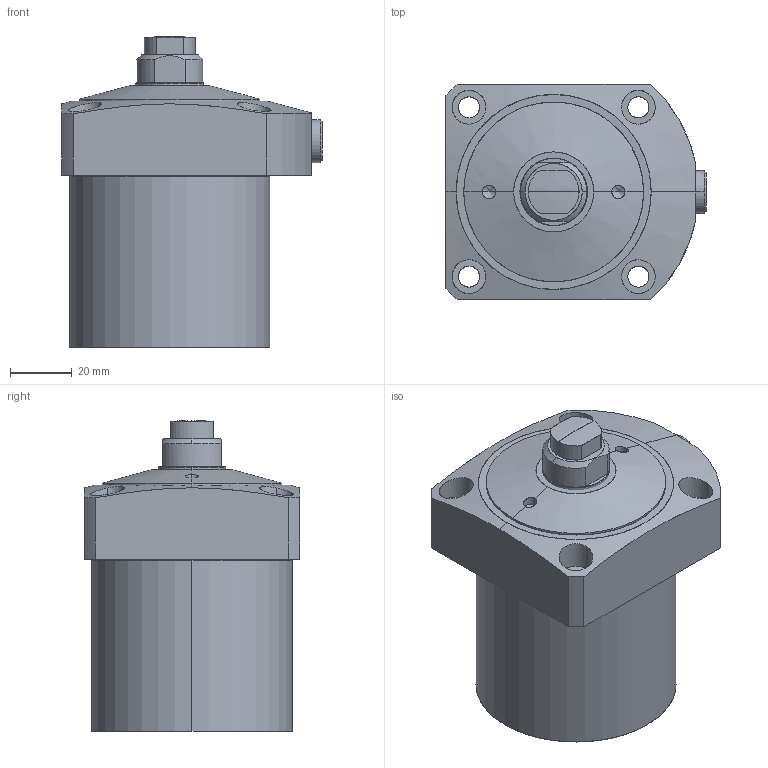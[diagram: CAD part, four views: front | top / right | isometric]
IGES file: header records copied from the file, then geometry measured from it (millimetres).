
Start section: SolidWorks IGES file using analytic representation for surfaces
Global section: file name: F:\clasys\65\LC0652-C.IGS; native system: SolidWorks 2010; preprocessor: SolidWorks 2010; author: nijil; date: 130720.235513; units: millimetre
Bounding box: 84.5 x 70 x 101 mm (x, y, z)
Surface area: 32944.9 mm2 (no closed solid volume)
Topology: 0 solids, 0 shells, 85 faces, 1711 edges, 1706 vertices
Faces by surface type: revolution 56, bspline 29
